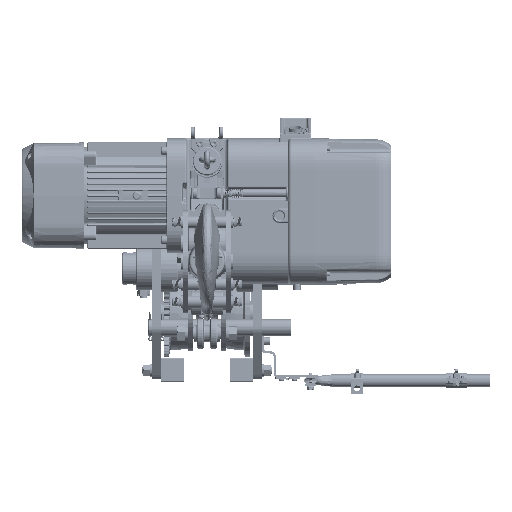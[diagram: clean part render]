
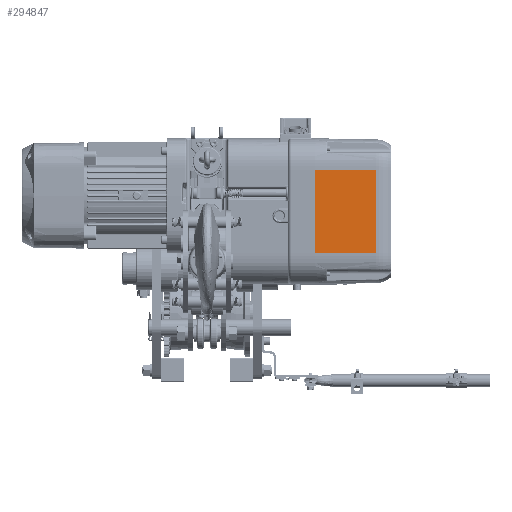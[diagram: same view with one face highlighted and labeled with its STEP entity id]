
A CAD part, front view. The second image highlights one B-rep face of the part: STEP entity #294847.
In plain terms, the highlighted planar face has unit normal (0.018, -1, 0) as drawn and (0, -1, 0.017) by its records, which use the part's own axes.
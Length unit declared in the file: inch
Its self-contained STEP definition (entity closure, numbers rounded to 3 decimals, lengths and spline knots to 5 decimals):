
#9388 = DIRECTION ( 'NONE',  ( 0., -0.017, -1. ) ) ;
#15352 = EDGE_CURVE ( 'NONE', #179522, #189051, #44126, .T. ) ;
#25130 = DIRECTION ( 'NONE',  ( 0., -1., 0.017 ) ) ;
#44126 = LINE ( 'NONE', #67717, #115910 ) ;
#44210 = EDGE_CURVE ( 'NONE', #189051, #188301, #102355, .T. ) ;
#67717 = CARTESIAN_POINT ( 'NONE',  ( 3.53868, -5.12571, 5.20322 ) ) ;
#96375 = CARTESIAN_POINT ( 'NONE',  ( 3.53868, -5.12571, 5.20322 ) ) ;
#102355 = LINE ( 'NONE', #129041, #184521 ) ;
#115910 = VECTOR ( 'NONE', #284392, 39.37008 ) ;
#121552 = ORIENTED_EDGE ( 'NONE', *, *, #44210, .T. ) ;
#122084 = CARTESIAN_POINT ( 'NONE',  ( -3.53868, -5.12571, 5.20322 ) ) ;
#122316 = VECTOR ( 'NONE', #238365, 39.37008 ) ;
#129041 = CARTESIAN_POINT ( 'NONE',  ( -3.53868, -5.21654, 0. ) ) ;
#134502 = EDGE_CURVE ( 'NONE', #179522, #241289, #147719, .T. ) ;
#140918 = CARTESIAN_POINT ( 'NONE',  ( 3.53868, -5.21654, 0. ) ) ;
#147719 = LINE ( 'NONE', #196408, #291443 ) ;
#151016 = DIRECTION ( 'NONE',  ( 0., -0.017, -1. ) ) ;
#176010 = EDGE_CURVE ( 'NONE', #241289, #188301, #233703, .T. ) ;
#179522 = VERTEX_POINT ( 'NONE', #96375 ) ;
#183937 = EDGE_LOOP ( 'NONE', ( #215398, #121552, #231177, #276295 ) ) ;
#184521 = VECTOR ( 'NONE', #151016, 39.37008 ) ;
#188301 = VERTEX_POINT ( 'NONE', #289682 ) ;
#189051 = VERTEX_POINT ( 'NONE', #122084 ) ;
#190175 = CARTESIAN_POINT ( 'NONE',  ( 0., -5.21654, 0. ) ) ;
#194829 = PLANE ( 'NONE',  #305613 ) ;
#196408 = CARTESIAN_POINT ( 'NONE',  ( 3.53868, -5.21654, 0. ) ) ;
#215398 = ORIENTED_EDGE ( 'NONE', *, *, #15352, .T. ) ;
#216403 = CARTESIAN_POINT ( 'NONE',  ( 0., -5.21654, 0. ) ) ;
#231177 = ORIENTED_EDGE ( 'NONE', *, *, #176010, .F. ) ;
#233703 = LINE ( 'NONE', #216403, #122316 ) ;
#238365 = DIRECTION ( 'NONE',  ( -1., 0., 0. ) ) ;
#241289 = VERTEX_POINT ( 'NONE', #140918 ) ;
#262314 = FACE_OUTER_BOUND ( 'NONE', #183937, .T. ) ;
#276295 = ORIENTED_EDGE ( 'NONE', *, *, #134502, .F. ) ;
#284392 = DIRECTION ( 'NONE',  ( -1., 0., 0. ) ) ;
#289682 = CARTESIAN_POINT ( 'NONE',  ( -3.53868, -5.21654, 0. ) ) ;
#290548 = DIRECTION ( 'NONE',  ( 0., -0.017, -1. ) ) ;
#291443 = VECTOR ( 'NONE', #9388, 39.37008 ) ;
#294847 = ADVANCED_FACE ( 'NONE', ( #262314 ), #194829, .T. ) ;
#305613 = AXIS2_PLACEMENT_3D ( 'NONE', #190175, #25130, #290548 ) ;
